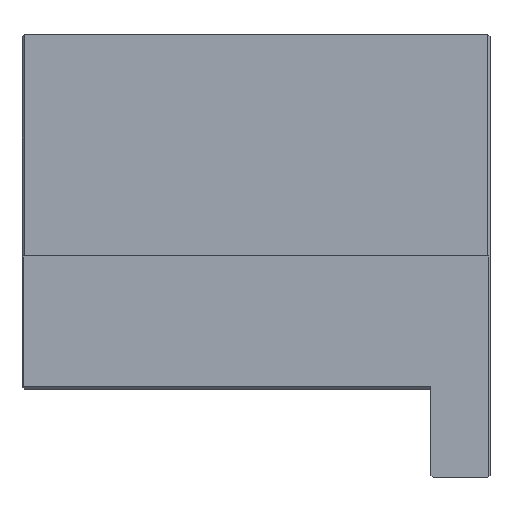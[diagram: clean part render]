
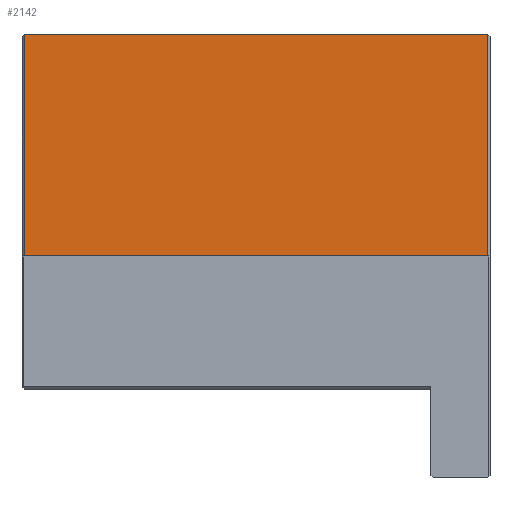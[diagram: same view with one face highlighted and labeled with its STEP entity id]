
A CAD part, front view. The second image highlights one B-rep face of the part: STEP entity #2142.
In plain terms, the highlighted planar face has unit normal (0, -1, 0).
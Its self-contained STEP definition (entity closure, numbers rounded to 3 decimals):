
#52 = ORIENTED_EDGE ( 'NONE', *, *, #685, .F. ) ;
#67 = LINE ( 'NONE', #3359, #3191 ) ;
#268 = EDGE_CURVE ( 'NONE', #3258, #1992, #67, .T. ) ;
#288 = ORIENTED_EDGE ( 'NONE', *, *, #268, .T. ) ;
#312 = DIRECTION ( 'NONE',  ( 1., 0., 0. ) ) ;
#393 = DIRECTION ( 'NONE',  ( 0., 0., 1. ) ) ;
#685 = EDGE_CURVE ( 'NONE', #2090, #1992, #1428, .T. ) ;
#727 = FACE_OUTER_BOUND ( 'NONE', #2455, .T. ) ;
#975 = VECTOR ( 'NONE', #312, 1000. ) ;
#1092 = DIRECTION ( 'NONE',  ( 0., 0., 1. ) ) ;
#1110 = DIRECTION ( 'NONE',  ( 0., 1., 0. ) ) ;
#1129 = CARTESIAN_POINT ( 'NONE',  ( -46.5, -47.5, 45. ) ) ;
#1208 = DIRECTION ( 'NONE',  ( 0., 0., -1. ) ) ;
#1241 = ORIENTED_EDGE ( 'NONE', *, *, #2814, .T. ) ;
#1265 = PLANE ( 'NONE',  #1956 ) ;
#1326 = CARTESIAN_POINT ( 'NONE',  ( -48., -47.5, 0. ) ) ;
#1428 = LINE ( 'NONE', #2466, #4331 ) ;
#1457 = CARTESIAN_POINT ( 'NONE',  ( -48., -47.5, 45. ) ) ;
#1552 = LINE ( 'NONE', #1326, #4569 ) ;
#1956 = AXIS2_PLACEMENT_3D ( 'NONE', #1129, #1110, #1092 ) ;
#1992 = VERTEX_POINT ( 'NONE', #2614 ) ;
#2090 = VERTEX_POINT ( 'NONE', #1457 ) ;
#2142 = ADVANCED_FACE ( 'NONE', ( #727 ), #1265, .F. ) ;
#2430 = DIRECTION ( 'NONE',  ( 1., 0., 0. ) ) ;
#2455 = EDGE_LOOP ( 'NONE', ( #3456, #288, #52, #1241 ) ) ;
#2466 = CARTESIAN_POINT ( 'NONE',  ( -46.5, -47.5, 45. ) ) ;
#2614 = CARTESIAN_POINT ( 'NONE',  ( 46., -47.5, 45. ) ) ;
#2814 = EDGE_CURVE ( 'NONE', #2090, #4672, #1552, .T. ) ;
#3191 = VECTOR ( 'NONE', #393, 1000. ) ;
#3217 = CARTESIAN_POINT ( 'NONE',  ( 46., -47.5, 0. ) ) ;
#3258 = VERTEX_POINT ( 'NONE', #3217 ) ;
#3359 = CARTESIAN_POINT ( 'NONE',  ( 46., -47.5, 45. ) ) ;
#3456 = ORIENTED_EDGE ( 'NONE', *, *, #4525, .T. ) ;
#3529 = CARTESIAN_POINT ( 'NONE',  ( -48., -47.5, 0. ) ) ;
#3934 = CARTESIAN_POINT ( 'NONE',  ( -48.5, -47.5, 0. ) ) ;
#4331 = VECTOR ( 'NONE', #2430, 1000. ) ;
#4494 = LINE ( 'NONE', #3934, #975 ) ;
#4525 = EDGE_CURVE ( 'NONE', #4672, #3258, #4494, .T. ) ;
#4569 = VECTOR ( 'NONE', #1208, 1000. ) ;
#4672 = VERTEX_POINT ( 'NONE', #3529 ) ;
